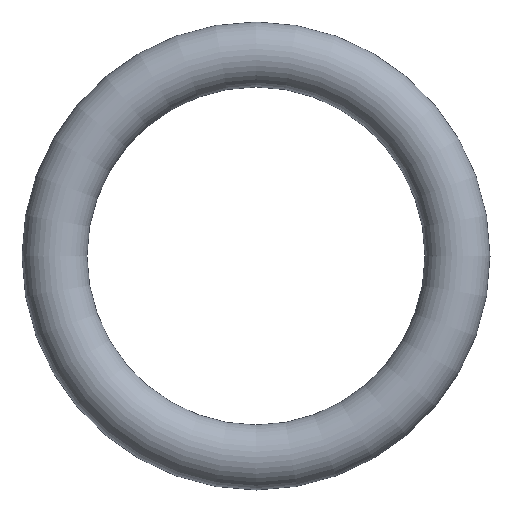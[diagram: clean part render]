
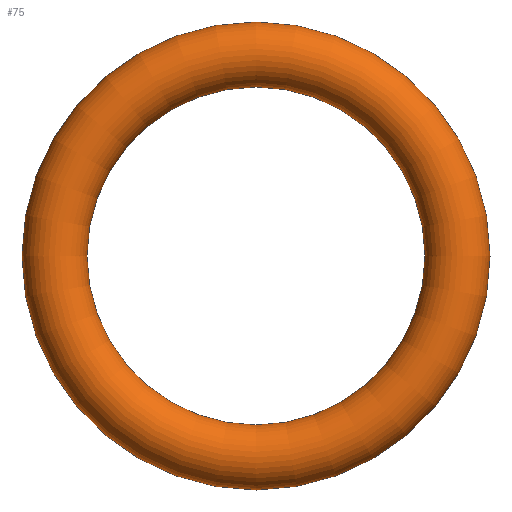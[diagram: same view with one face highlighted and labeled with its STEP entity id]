
A CAD part, front view. The second image highlights one B-rep face of the part: STEP entity #75.
In plain terms, the highlighted toroidal (fillet/blend) face has major radius 7.75 mm and minor radius 1.25 mm.
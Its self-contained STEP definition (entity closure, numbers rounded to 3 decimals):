
#75 = ADVANCED_FACE( '', ( #77 ), #78, .T. );
#77 = FACE_BOUND( '', #79, .T. );
#78 = TOROIDAL_SURFACE( '', #80, 7.75, 1.25 );
#79 = VERTEX_LOOP( '', #81 );
#80 = AXIS2_PLACEMENT_3D( '', #82, #83, #84 );
#81 = VERTEX_POINT( '', #85 );
#82 = CARTESIAN_POINT( '', ( 0., 0., 0. ) );
#83 = DIRECTION( '', ( 0., -1., 0. ) );
#84 = DIRECTION( '', ( 0., 0., -1. ) );
#85 = CARTESIAN_POINT( '', ( 0., 0., -9. ) );
